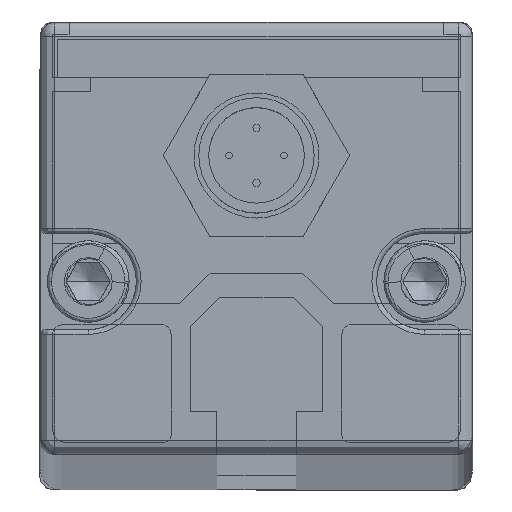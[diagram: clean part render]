
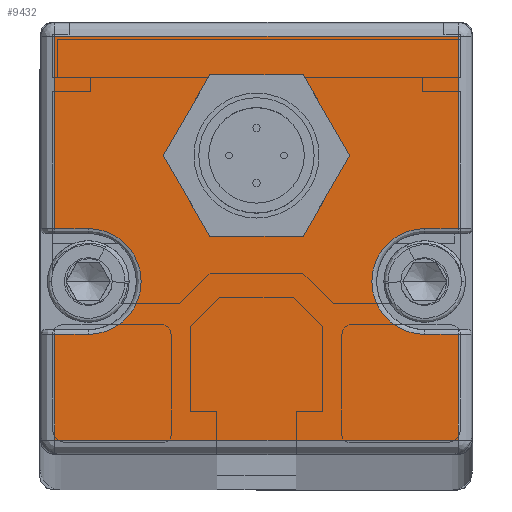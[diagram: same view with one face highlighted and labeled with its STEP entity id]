
A CAD part, top view. The second image highlights one B-rep face of the part: STEP entity #9432.
In plain terms, the highlighted planar face has unit normal (0, 0, 1) as drawn and (0, 1, 0) by its records, which use the part's own axes.
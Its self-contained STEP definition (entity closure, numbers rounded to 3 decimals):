
#133 = CARTESIAN_POINT ( 'NONE',  ( 17.5, 7., 4.5 ) ) ;
#155 = CARTESIAN_POINT ( 'NONE',  ( 0., 7., -8.6 ) ) ;
#171 = DIRECTION ( 'NONE',  ( 0., 1., 0. ) ) ;
#174 = DIRECTION ( 'NONE',  ( 0., 0., 1. ) ) ;
#185 = DIRECTION ( 'NONE',  ( 0., -1., 0. ) ) ;
#190 = DIRECTION ( 'NONE',  ( 0., 0., 1. ) ) ;
#254 = DIRECTION ( 'NONE',  ( -1., 0., 0. ) ) ;
#255 = CARTESIAN_POINT ( 'NONE',  ( 22.5, 7., 10. ) ) ;
#263 = DIRECTION ( 'NONE',  ( 0., -1., 0. ) ) ;
#268 = DIRECTION ( 'NONE',  ( 0., 0., 1. ) ) ;
#270 = DIRECTION ( 'NONE',  ( -1., 0., 0. ) ) ;
#282 = CARTESIAN_POINT ( 'NONE',  ( 22.5, 7., 10. ) ) ;
#283 = CARTESIAN_POINT ( 'NONE',  ( -17.5, 7., 4.5 ) ) ;
#578 = EDGE_LOOP ( 'NONE', ( #8493, #8494, #8495, #8496, #8497, #8498, #8499, #8500, #8516, #8501, #8502, #8503 ) ) ;
#696 = LINE ( 'NONE', #6766, #702 ) ;
#702 = VECTOR ( 'NONE', #9436, 1000. ) ;
#727 = LINE ( 'NONE', #6352, #728 ) ;
#728 = VECTOR ( 'NONE', #6346, 1000. ) ;
#753 = VECTOR ( 'NONE', #5680, 1000. ) ;
#757 = LINE ( 'NONE', #5679, #753 ) ;
#764 = LINE ( 'NONE', #5674, #765 ) ;
#765 = VECTOR ( 'NONE', #5675, 1000. ) ;
#769 = LINE ( 'NONE', #5683, #770 ) ;
#770 = VECTOR ( 'NONE', #5684, 1000. ) ;
#777 = VECTOR ( 'NONE', #5726, 1000. ) ;
#789 = LINE ( 'NONE', #5719, #777 ) ;
#1493 = LINE ( 'NONE', #255, #1494 ) ;
#1494 = VECTOR ( 'NONE', #254, 1000. ) ;
#1499 = LINE ( 'NONE', #282, #1503 ) ;
#1500 = CIRCLE ( 'NONE', #8131, 5.5 ) ;
#1503 = VECTOR ( 'NONE', #270, 1000. ) ;
#1514 = LINE ( 'NONE', #9609, #1515 ) ;
#1515 = VECTOR ( 'NONE', #9587, 1000. ) ;
#1519 = VECTOR ( 'NONE', #9576, 1000. ) ;
#1525 = LINE ( 'NONE', #9569, #1519 ) ;
#1677 = EDGE_LOOP ( 'NONE', ( #8491, #8492 ) ) ;
#1758 = DIRECTION ( 'NONE',  ( 0., 1., 0. ) ) ;
#1861 = DIRECTION ( 'NONE',  ( 0., 0., 1. ) ) ;
#2211 = CARTESIAN_POINT ( 'NONE',  ( 0., 7., -8.6 ) ) ;
#2309 = AXIS2_PLACEMENT_3D ( 'NONE', #5273, #5287, #5288 ) ;
#2653 = EDGE_CURVE ( 'NONE', #6801, #6794, #8814, .T. ) ;
#2822 = EDGE_CURVE ( 'NONE', #6794, #6801, #7799, .T. ) ;
#2844 = EDGE_CURVE ( 'NONE', #6907, #7330, #7830, .T. ) ;
#2869 = EDGE_CURVE ( 'NONE', #7217, #7334, #1500, .T. ) ;
#2870 = EDGE_CURVE ( 'NONE', #7334, #6896, #1493, .T. ) ;
#2872 = EDGE_CURVE ( 'NONE', #6784, #6907, #1499, .T. ) ;
#2885 = EDGE_CURVE ( 'NONE', #6896, #6813, #1514, .T. ) ;
#2889 = EDGE_CURVE ( 'NONE', #6813, #6774, #1525, .T. ) ;
#4123 = EDGE_CURVE ( 'NONE', #6903, #6825, #696, .T. ) ;
#4137 = EDGE_CURVE ( 'NONE', #6774, #6784, #727, .T. ) ;
#4159 = EDGE_CURVE ( 'NONE', #7220, #7217, #764, .T. ) ;
#4161 = EDGE_CURVE ( 'NONE', #7330, #6906, #757, .T. ) ;
#4163 = EDGE_CURVE ( 'NONE', #6906, #6903, #769, .T. ) ;
#4178 = EDGE_CURVE ( 'NONE', #6825, #7220, #789, .T. ) ;
#4380 = AXIS2_PLACEMENT_3D ( 'NONE', #2211, #1758, #1861 ) ;
#4654 = CARTESIAN_POINT ( 'NONE',  ( 21., 7., 21. ) ) ;
#4663 = CARTESIAN_POINT ( 'NONE',  ( 21., 7., 10. ) ) ;
#4674 = CARTESIAN_POINT ( 'NONE',  ( 0., 7., -2.1 ) ) ;
#4681 = CARTESIAN_POINT ( 'NONE',  ( 0., 7., -15.1 ) ) ;
#4691 = CARTESIAN_POINT ( 'NONE',  ( -21., 7., 21. ) ) ;
#4705 = CARTESIAN_POINT ( 'NONE',  ( -21., 7., -21. ) ) ;
#4743 = CARTESIAN_POINT ( 'NONE',  ( -21., 7., 10. ) ) ;
#4749 = CARTESIAN_POINT ( 'NONE',  ( 21., 7., -21. ) ) ;
#4753 = CARTESIAN_POINT ( 'NONE',  ( 21., 7., -1. ) ) ;
#4754 = CARTESIAN_POINT ( 'NONE',  ( 17.5, 7., 10. ) ) ;
#4915 = CARTESIAN_POINT ( 'NONE',  ( -17.5, 7., -1. ) ) ;
#4918 = CARTESIAN_POINT ( 'NONE',  ( -21., 7., -1. ) ) ;
#5024 = CARTESIAN_POINT ( 'NONE',  ( 17.5, 7., -1. ) ) ;
#5028 = CARTESIAN_POINT ( 'NONE',  ( -17.5, 7., 10. ) ) ;
#5273 = CARTESIAN_POINT ( 'NONE',  ( 22.5, 7., 22.5 ) ) ;
#5286 = PLANE ( 'NONE',  #2309 ) ;
#5287 = DIRECTION ( 'NONE',  ( 0., 1., 0. ) ) ;
#5288 = DIRECTION ( 'NONE',  ( 0., 0., 1. ) ) ;
#5388 = FACE_BOUND ( 'NONE', #1677, .T. ) ;
#5389 = FACE_OUTER_BOUND ( 'NONE', #578, .T. ) ;
#5674 = CARTESIAN_POINT ( 'NONE',  ( 22.5, 7., -1. ) ) ;
#5675 = DIRECTION ( 'NONE',  ( 1., 0., 0. ) ) ;
#5679 = CARTESIAN_POINT ( 'NONE',  ( 22.5, 7., -1. ) ) ;
#5680 = DIRECTION ( 'NONE',  ( 1., 0., 0. ) ) ;
#5683 = CARTESIAN_POINT ( 'NONE',  ( 21., 7., -22.5 ) ) ;
#5684 = DIRECTION ( 'NONE',  ( 0., 0., -1. ) ) ;
#5719 = CARTESIAN_POINT ( 'NONE',  ( -21., 7., 22.5 ) ) ;
#5726 = DIRECTION ( 'NONE',  ( 0., 0., 1. ) ) ;
#6346 = DIRECTION ( 'NONE',  ( 0., 0., -1. ) ) ;
#6352 = CARTESIAN_POINT ( 'NONE',  ( 21., 7., 9.5 ) ) ;
#6766 = CARTESIAN_POINT ( 'NONE',  ( 22.5, 7., -21. ) ) ;
#6774 = VERTEX_POINT ( 'NONE', #4654 ) ;
#6784 = VERTEX_POINT ( 'NONE', #4663 ) ;
#6794 = VERTEX_POINT ( 'NONE', #4674 ) ;
#6801 = VERTEX_POINT ( 'NONE', #4681 ) ;
#6813 = VERTEX_POINT ( 'NONE', #4691 ) ;
#6825 = VERTEX_POINT ( 'NONE', #4705 ) ;
#6896 = VERTEX_POINT ( 'NONE', #4743 ) ;
#6903 = VERTEX_POINT ( 'NONE', #4749 ) ;
#6906 = VERTEX_POINT ( 'NONE', #4753 ) ;
#6907 = VERTEX_POINT ( 'NONE', #4754 ) ;
#7217 = VERTEX_POINT ( 'NONE', #4915 ) ;
#7220 = VERTEX_POINT ( 'NONE', #4918 ) ;
#7330 = VERTEX_POINT ( 'NONE', #5024 ) ;
#7334 = VERTEX_POINT ( 'NONE', #5028 ) ;
#7799 = CIRCLE ( 'NONE', #8116, 6.5 ) ;
#7830 = CIRCLE ( 'NONE', #8125, 5.5 ) ;
#8116 = AXIS2_PLACEMENT_3D ( 'NONE', #155, #171, #190 ) ;
#8125 = AXIS2_PLACEMENT_3D ( 'NONE', #133, #185, #174 ) ;
#8131 = AXIS2_PLACEMENT_3D ( 'NONE', #283, #263, #268 ) ;
#8491 = ORIENTED_EDGE ( 'NONE', *, *, #2822, .F. ) ;
#8492 = ORIENTED_EDGE ( 'NONE', *, *, #2653, .F. ) ;
#8493 = ORIENTED_EDGE ( 'NONE', *, *, #4137, .T. ) ;
#8494 = ORIENTED_EDGE ( 'NONE', *, *, #2872, .T. ) ;
#8495 = ORIENTED_EDGE ( 'NONE', *, *, #2844, .T. ) ;
#8496 = ORIENTED_EDGE ( 'NONE', *, *, #4161, .T. ) ;
#8497 = ORIENTED_EDGE ( 'NONE', *, *, #4163, .T. ) ;
#8498 = ORIENTED_EDGE ( 'NONE', *, *, #4123, .T. ) ;
#8499 = ORIENTED_EDGE ( 'NONE', *, *, #4178, .T. ) ;
#8500 = ORIENTED_EDGE ( 'NONE', *, *, #4159, .T. ) ;
#8501 = ORIENTED_EDGE ( 'NONE', *, *, #2870, .T. ) ;
#8502 = ORIENTED_EDGE ( 'NONE', *, *, #2885, .T. ) ;
#8503 = ORIENTED_EDGE ( 'NONE', *, *, #2889, .T. ) ;
#8516 = ORIENTED_EDGE ( 'NONE', *, *, #2869, .T. ) ;
#8814 = CIRCLE ( 'NONE', #4380, 6.5 ) ;
#9432 = ADVANCED_FACE ( 'NONE', ( #5388, #5389 ), #5286, .T. ) ;
#9436 = DIRECTION ( 'NONE',  ( -1., 0., 0. ) ) ;
#9569 = CARTESIAN_POINT ( 'NONE',  ( 22.5, 7., 21. ) ) ;
#9576 = DIRECTION ( 'NONE',  ( 1., 0., 0. ) ) ;
#9587 = DIRECTION ( 'NONE',  ( 0., 0., 1. ) ) ;
#9609 = CARTESIAN_POINT ( 'NONE',  ( -21., 7., 22.5 ) ) ;
